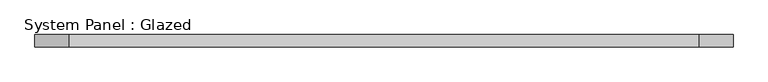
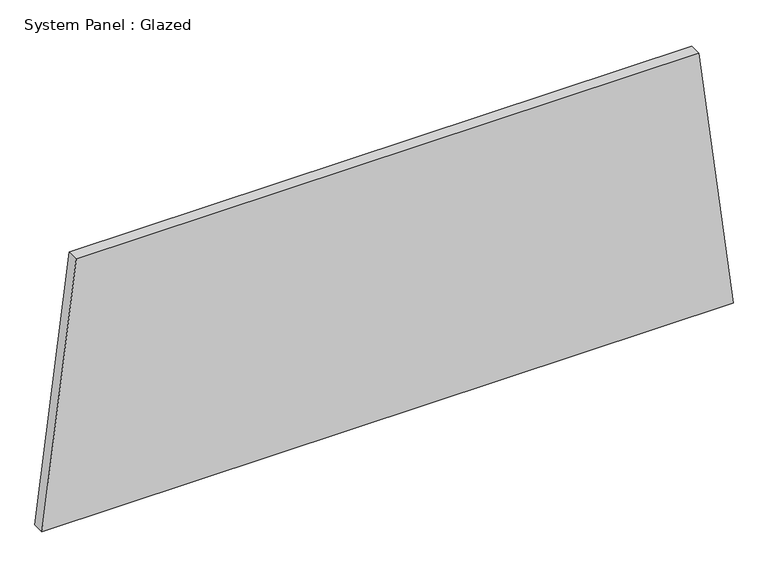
"""IFC4 building model written with IfcOpenShell, lengths in millimetres: plate geometry, System Panel : Glazed."""

from ifc_helpers import new_model, si_unit, frame, origin, place, context, project, spatial, polyline, outline, extrude, source, transform, mapped, element, save


def system_panel_glazed_b4bd1deb(model_context):
    return source(origin(), model_context, "Body", "SweptSolid", [
        extrude(outline(polyline([(0.0, -724.8307287), (0.0, 724.8307287), (579.5793733, 653.0619187), (579.5793733, -653.0619187), (0.0, -724.8307287)])), frame((0.0, -44.45, 0.0), z_axis=(0.0, 1.0, 0.0), x_axis=(0.0, 0.0, 1.0)), (0.0, 0.0, 1.0), 25.4),
    ])


if __name__ == "__main__":
    model = new_model("IFC4")
    model_context = context("Model", 3, world=origin())
    ifc_project = project(units=[si_unit("LENGTHUNIT", "METRE", prefix="MILLI")], contexts=[model_context])
    site = spatial("IfcSite", under=ifc_project)
    building = spatial("IfcBuilding", under=site)
    placement = place(None, origin())
    system_panel_glazed_shape = system_panel_glazed_b4bd1deb(model_context)
    element("IfcPlate", 1, ObjectType="System Panel : Glazed", at=placement, inside=building, context=model_context, shape_type="MappedRepresentation", body=[
        mapped(system_panel_glazed_shape, transform((0.0, 0.0, 0.0), x_axis=(1.0, 0.0, 0.0), y_axis=(0.0, 1.0, 0.0), z_axis=(0.0, 0.0, 1.0))),
    ])
    save(model, "model.ifc")
